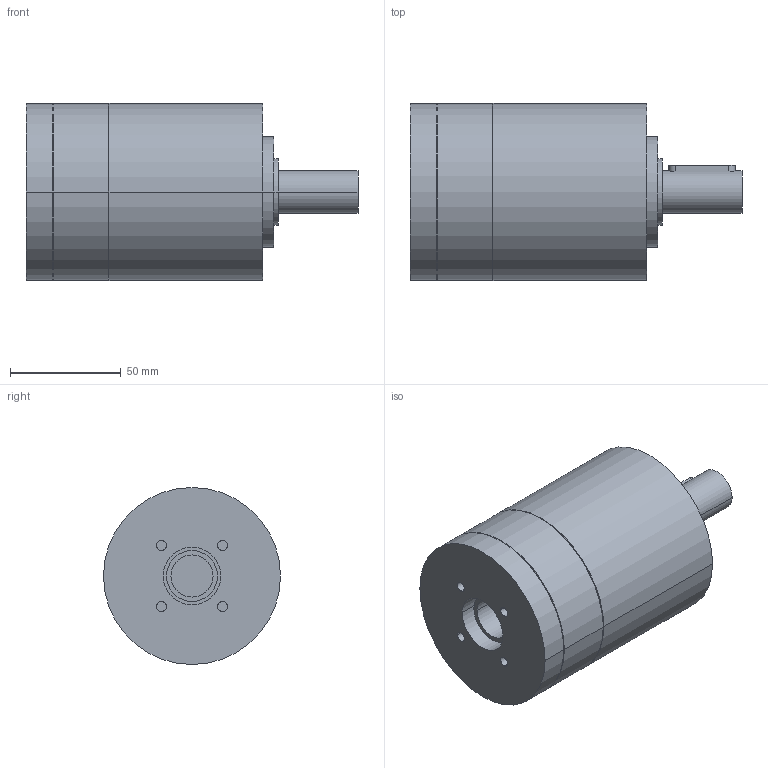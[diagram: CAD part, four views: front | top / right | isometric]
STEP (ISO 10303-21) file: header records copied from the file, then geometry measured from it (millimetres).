
FILE_DESCRIPTION(('CoCreate Modeling STEP Export'),'2;1');
FILE_NAME('GPR100_ig-3-4-5-6_19_B14_19_P09.stp','2014-08-26T10:08:37',(''),(''),'CoCreate Modeling STEP processor for AP214 (Solid Model)','CoCreate Modeling 16.00C 25-Feb-2009 (C) Parametric Technology GmbH','');
FILE_SCHEMA(('AUTOMOTIVE_DESIGN { 1 0 10303 214 1 1 1 1 }'));
Length unit declared in the file: millimetre
Products named in the file (2): GPR100_ig-3-4-5-6_19_B14_19_P09
Assembly tree (1 placements, depth 2):
  GPR100_ig-3-4-5-6_19_B14_19_P09
    GPR100_ig-3-4-5-6_19_B14_19_P09
Bounding box: 150 x 80 x 80 mm (x, y, z)
Volume: 542279.6 mm3; surface area: 46661 mm2
Topology: 1 solids, 1 shells, 77 faces, 198 edges, 142 vertices
Faces by surface type: cylinder 46, plane 25, cone 6
Entity records: 1971 total; most frequent: ORIENTED_EDGE 392, CARTESIAN_POINT 361, DIRECTION 252, EDGE_CURVE 196, VERTEX_POINT 142, EDGE_LOOP 98, AXIS2_PLACEMENT_3D 97, FACE_OUTER_BOUND 77
